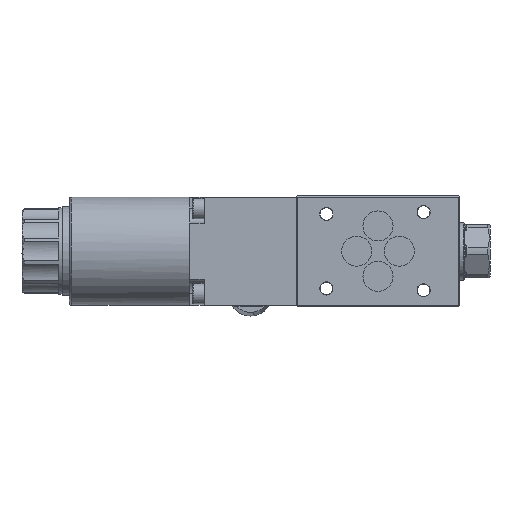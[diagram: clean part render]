
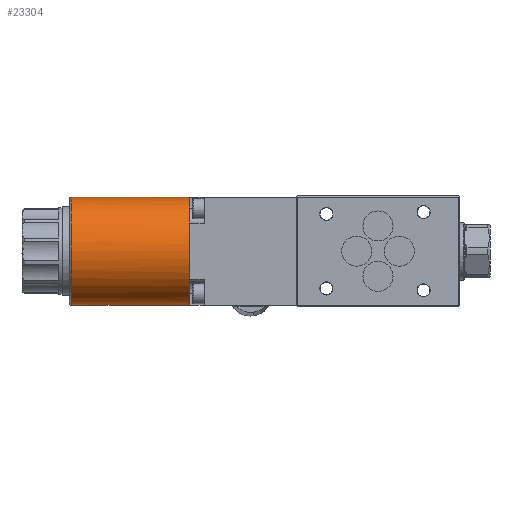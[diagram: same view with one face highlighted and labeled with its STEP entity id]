
A CAD part, front view. The second image highlights one B-rep face of the part: STEP entity #23304.
In plain terms, the highlighted cylindrical face has radius 22.5 mm (diameter 45 mm), a partial arc.
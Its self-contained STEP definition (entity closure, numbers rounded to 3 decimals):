
#481 = CARTESIAN_POINT ( 'NONE',  ( -78.4, -0.5, 0. ) ) ;
#908 = CARTESIAN_POINT ( 'NONE',  ( -78.4, -19.731, -11.68 ) ) ;
#948 = DIRECTION ( 'NONE',  ( -1., 0., 0. ) ) ;
#1381 = CARTESIAN_POINT ( 'NONE',  ( -127.9, -0.5, 22.5 ) ) ;
#2025 = VERTEX_POINT ( 'NONE', #8871 ) ;
#2987 = CIRCLE ( 'NONE', #25560, 22.5 ) ;
#3610 = AXIS2_PLACEMENT_3D ( 'NONE', #35364, #41374, #11154 ) ;
#3621 = CARTESIAN_POINT ( 'NONE',  ( -78.4, -0.5, 0. ) ) ;
#3643 = EDGE_CURVE ( 'NONE', #18855, #2025, #4849, .T. ) ;
#3688 = ORIENTED_EDGE ( 'NONE', *, *, #6631, .T. ) ;
#4078 = CARTESIAN_POINT ( 'NONE',  ( -78.4, -0.5, 0. ) ) ;
#4451 = CYLINDRICAL_SURFACE ( 'NONE', #22781, 22.5 ) ;
#4669 = DIRECTION ( 'NONE',  ( 1., 0., 0. ) ) ;
#4779 = DIRECTION ( 'NONE',  ( 1., 0., 0. ) ) ;
#4849 = CIRCLE ( 'NONE', #26033, 22.5 ) ;
#5097 = AXIS2_PLACEMENT_3D ( 'NONE', #481, #13911, #40809 ) ;
#5623 = DIRECTION ( 'NONE',  ( -1., 0., 0. ) ) ;
#6129 = AXIS2_PLACEMENT_3D ( 'NONE', #3621, #7143, #27038 ) ;
#6631 = EDGE_CURVE ( 'NONE', #36595, #37248, #18689, .T. ) ;
#6828 = ORIENTED_EDGE ( 'NONE', *, *, #40824, .T. ) ;
#7007 = ORIENTED_EDGE ( 'NONE', *, *, #3643, .T. ) ;
#7143 = DIRECTION ( 'NONE',  ( -1., 0., 0. ) ) ;
#7205 = CIRCLE ( 'NONE', #30484, 22.5 ) ;
#7531 = VECTOR ( 'NONE', #11285, 1000. ) ;
#7824 = ORIENTED_EDGE ( 'NONE', *, *, #17656, .T. ) ;
#7939 = VERTEX_POINT ( 'NONE', #39946 ) ;
#8871 = CARTESIAN_POINT ( 'NONE',  ( -127.4, -0.5, -22.5 ) ) ;
#9275 = FACE_OUTER_BOUND ( 'NONE', #20192, .T. ) ;
#9898 = CIRCLE ( 'NONE', #3610, 22.5 ) ;
#10044 = ORIENTED_EDGE ( 'NONE', *, *, #33885, .T. ) ;
#10840 = CARTESIAN_POINT ( 'NONE',  ( -127.9, -0.5, 0. ) ) ;
#11154 = DIRECTION ( 'NONE',  ( 0., 0., 1. ) ) ;
#11285 = DIRECTION ( 'NONE',  ( 1., 0., 0. ) ) ;
#11470 = CARTESIAN_POINT ( 'NONE',  ( -127.9, -0.5, -22.5 ) ) ;
#12079 = CARTESIAN_POINT ( 'NONE',  ( -78.4, -12.18, 19.231 ) ) ;
#12146 = CARTESIAN_POINT ( 'NONE',  ( -78.4, -0.5, 22.5 ) ) ;
#12733 = ORIENTED_EDGE ( 'NONE', *, *, #13332, .T. ) ;
#13332 = EDGE_CURVE ( 'NONE', #25253, #39687, #9898, .T. ) ;
#13911 = DIRECTION ( 'NONE',  ( -1., 0., 0. ) ) ;
#14159 = DIRECTION ( 'NONE',  ( 0., 0., 1. ) ) ;
#14368 = DIRECTION ( 'NONE',  ( 1., 0., 0. ) ) ;
#17405 = CIRCLE ( 'NONE', #6129, 22.5 ) ;
#17656 = EDGE_CURVE ( 'NONE', #39687, #39277, #26971, .T. ) ;
#18225 = ORIENTED_EDGE ( 'NONE', *, *, #40915, .F. ) ;
#18689 = CIRCLE ( 'NONE', #27863, 22.5 ) ;
#18845 = EDGE_CURVE ( 'NONE', #23194, #25253, #2987, .T. ) ;
#18855 = VERTEX_POINT ( 'NONE', #23687 ) ;
#19088 = DIRECTION ( 'NONE',  ( 0., 0., 1. ) ) ;
#20192 = EDGE_LOOP ( 'NONE', ( #7007, #41436, #32723, #12733, #7824, #6828, #10044, #3688, #18225 ) ) ;
#21638 = DIRECTION ( 'NONE',  ( 0., 0., 1. ) ) ;
#22103 = LINE ( 'NONE', #11470, #39221 ) ;
#22434 = CARTESIAN_POINT ( 'NONE',  ( -78.4, -0.5, 0. ) ) ;
#22781 = AXIS2_PLACEMENT_3D ( 'NONE', #10840, #14368, #14159 ) ;
#23194 = VERTEX_POINT ( 'NONE', #28724 ) ;
#23304 = ADVANCED_FACE ( 'NONE', ( #9275 ), #4451, .T. ) ;
#23687 = CARTESIAN_POINT ( 'NONE',  ( -127.4, -0.5, 22.5 ) ) ;
#25253 = VERTEX_POINT ( 'NONE', #27645 ) ;
#25560 = AXIS2_PLACEMENT_3D ( 'NONE', #33981, #38305, #21638 ) ;
#26033 = AXIS2_PLACEMENT_3D ( 'NONE', #31650, #4779, #41143 ) ;
#26971 = CIRCLE ( 'NONE', #5097, 22.5 ) ;
#27038 = DIRECTION ( 'NONE',  ( 0., 0., 1. ) ) ;
#27645 = CARTESIAN_POINT ( 'NONE',  ( -78.4, -12.18, -19.231 ) ) ;
#27863 = AXIS2_PLACEMENT_3D ( 'NONE', #22434, #5623, #19088 ) ;
#28724 = CARTESIAN_POINT ( 'NONE',  ( -78.4, -0.5, -22.5 ) ) ;
#30484 = AXIS2_PLACEMENT_3D ( 'NONE', #4078, #948, #33623 ) ;
#31650 = CARTESIAN_POINT ( 'NONE',  ( -127.4, -0.5, 0. ) ) ;
#32723 = ORIENTED_EDGE ( 'NONE', *, *, #18845, .T. ) ;
#33623 = DIRECTION ( 'NONE',  ( 0., 0., 1. ) ) ;
#33885 = EDGE_CURVE ( 'NONE', #7939, #36595, #7205, .T. ) ;
#33981 = CARTESIAN_POINT ( 'NONE',  ( -78.4, -0.5, 0. ) ) ;
#35079 = LINE ( 'NONE', #1381, #7531 ) ;
#35364 = CARTESIAN_POINT ( 'NONE',  ( -78.4, -0.5, 0. ) ) ;
#35856 = CARTESIAN_POINT ( 'NONE',  ( -78.4, -23., 0. ) ) ;
#36595 = VERTEX_POINT ( 'NONE', #12079 ) ;
#37248 = VERTEX_POINT ( 'NONE', #12146 ) ;
#38305 = DIRECTION ( 'NONE',  ( -1., 0., 0. ) ) ;
#39221 = VECTOR ( 'NONE', #4669, 1000. ) ;
#39277 = VERTEX_POINT ( 'NONE', #35856 ) ;
#39687 = VERTEX_POINT ( 'NONE', #908 ) ;
#39946 = CARTESIAN_POINT ( 'NONE',  ( -78.4, -19.731, 11.68 ) ) ;
#40809 = DIRECTION ( 'NONE',  ( 0., 0., 1. ) ) ;
#40824 = EDGE_CURVE ( 'NONE', #39277, #7939, #17405, .T. ) ;
#40915 = EDGE_CURVE ( 'NONE', #18855, #37248, #35079, .T. ) ;
#41143 = DIRECTION ( 'NONE',  ( 0., 0., -1. ) ) ;
#41374 = DIRECTION ( 'NONE',  ( -1., 0., 0. ) ) ;
#41436 = ORIENTED_EDGE ( 'NONE', *, *, #42052, .T. ) ;
#42052 = EDGE_CURVE ( 'NONE', #2025, #23194, #22103, .T. ) ;
